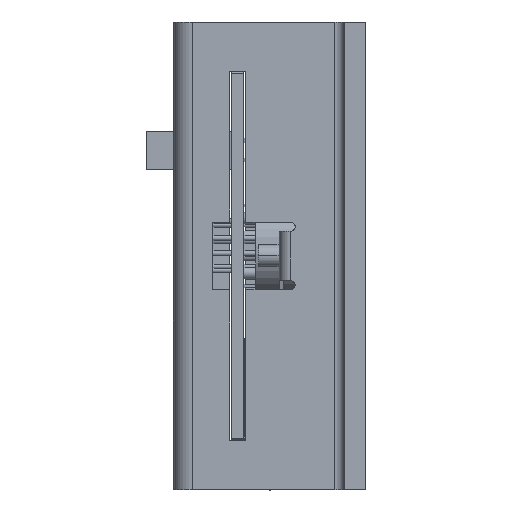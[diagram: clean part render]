
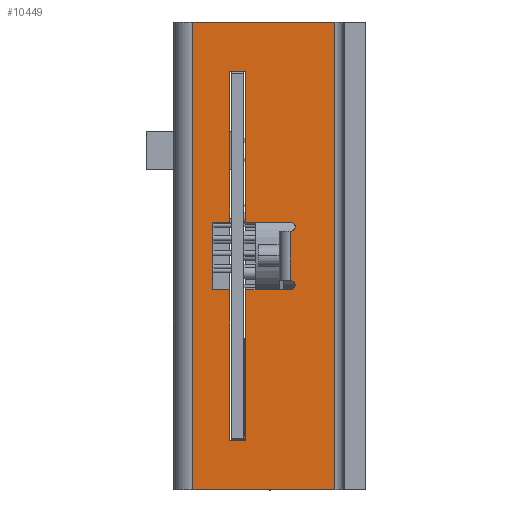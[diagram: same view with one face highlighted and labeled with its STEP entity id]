
A CAD part, front view. The second image highlights one B-rep face of the part: STEP entity #10449.
In plain terms, the highlighted planar face has unit normal (0, -1, 0).
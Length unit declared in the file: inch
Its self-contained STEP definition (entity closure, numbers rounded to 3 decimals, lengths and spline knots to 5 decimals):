
#34=DIRECTION('',(1.,0.,0.));
#35=VECTOR('',#34,0.728);
#36=CARTESIAN_POINT('',(-0.824,0.34,-2.388));
#37=LINE('',#36,#35);
#211=DIRECTION('',(1.,0.,0.));
#212=VECTOR('',#211,0.728);
#213=CARTESIAN_POINT('',(-0.824,0.34,0.));
#214=LINE('',#213,#212);
#345=DIRECTION('',(0.,0.,1.));
#346=VECTOR('',#345,2.388);
#347=CARTESIAN_POINT('',(-0.096,0.34,-2.388));
#348=LINE('',#347,#346);
#349=DIRECTION('',(0.,0.,1.));
#350=VECTOR('',#349,2.388);
#351=CARTESIAN_POINT('',(-0.824,0.34,-2.388));
#352=LINE('',#351,#350);
#353=CARTESIAN_POINT('',(-0.323,0.34,-1.045));
#354=DIRECTION('',(0.,-1.,0.));
#355=DIRECTION('',(0.,0.,-1.));
#356=AXIS2_PLACEMENT_3D('',#353,#354,#355);
#358=DIRECTION('',(1.,0.,0.));
#359=VECTOR('',#358,0.227);
#360=CARTESIAN_POINT('',(-0.55,0.34,-1.021));
#361=LINE('',#360,#359);
#362=DIRECTION('',(0.,0.,1.));
#363=VECTOR('',#362,0.769);
#364=CARTESIAN_POINT('',(-0.55,0.34,-1.021));
#365=LINE('',#364,#363);
#366=DIRECTION('',(-1.,0.,0.));
#367=VECTOR('',#366,0.082);
#368=CARTESIAN_POINT('',(-0.55,0.34,-0.252));
#369=LINE('',#368,#367);
#370=DIRECTION('',(0.,0.,-1.));
#371=VECTOR('',#370,0.769);
#372=CARTESIAN_POINT('',(-0.632,0.34,-0.252));
#373=LINE('',#372,#371);
#374=DIRECTION('',(1.,0.,0.));
#375=VECTOR('',#374,0.088);
#376=CARTESIAN_POINT('',(-0.72,0.34,-1.021));
#377=LINE('',#376,#375);
#378=DIRECTION('',(0.,0.,1.));
#379=VECTOR('',#378,0.346);
#380=CARTESIAN_POINT('',(-0.72,0.34,-1.367));
#381=LINE('',#380,#379);
#382=DIRECTION('',(-1.,0.,0.));
#383=VECTOR('',#382,0.088);
#384=CARTESIAN_POINT('',(-0.632,0.34,-1.367));
#385=LINE('',#384,#383);
#386=DIRECTION('',(0.,0.,-1.));
#387=VECTOR('',#386,0.769);
#388=CARTESIAN_POINT('',(-0.632,0.34,-1.367));
#389=LINE('',#388,#387);
#390=DIRECTION('',(1.,0.,0.));
#391=VECTOR('',#390,0.082);
#392=CARTESIAN_POINT('',(-0.632,0.34,-2.136));
#393=LINE('',#392,#391);
#394=DIRECTION('',(0.,0.,1.));
#395=VECTOR('',#394,0.769);
#396=CARTESIAN_POINT('',(-0.55,0.34,-2.136));
#397=LINE('',#396,#395);
#398=DIRECTION('',(-1.,0.,0.));
#399=VECTOR('',#398,0.227);
#400=CARTESIAN_POINT('',(-0.323,0.34,-1.367));
#401=LINE('',#400,#399);
#402=CARTESIAN_POINT('',(-0.323,0.34,-1.343));
#403=DIRECTION('',(0.,-1.,0.));
#404=DIRECTION('',(0.,0.,-1.));
#405=AXIS2_PLACEMENT_3D('',#402,#403,#404);
#6923=DIRECTION('',(0.,0.,1.));
#6924=VECTOR('',#6923,0.25);
#6925=CARTESIAN_POINT('',(-0.323,0.34,-1.319));
#6926=LINE('',#6925,#6924);
#7830=CARTESIAN_POINT('',(-0.824,0.34,-2.388));
#7832=VERTEX_POINT('',#7830);
#7833=CARTESIAN_POINT('',(-0.096,0.34,-2.388));
#7834=VERTEX_POINT('',#7833);
#7850=CARTESIAN_POINT('',(-0.824,0.34,0.));
#7852=VERTEX_POINT('',#7850);
#7853=CARTESIAN_POINT('',(-0.096,0.34,0.));
#7854=VERTEX_POINT('',#7853);
#7995=CARTESIAN_POINT('',(-0.55,0.34,-0.252));
#7996=CARTESIAN_POINT('',(-0.632,0.34,-0.252));
#7997=VERTEX_POINT('',#7995);
#7998=VERTEX_POINT('',#7996);
#7999=CARTESIAN_POINT('',(-0.632,0.34,-2.136));
#8000=CARTESIAN_POINT('',(-0.55,0.34,-2.136));
#8001=VERTEX_POINT('',#7999);
#8002=VERTEX_POINT('',#8000);
#8307=CARTESIAN_POINT('',(-0.72,0.34,-1.367));
#8308=CARTESIAN_POINT('',(-0.72,0.34,-1.021));
#8309=VERTEX_POINT('',#8307);
#8310=VERTEX_POINT('',#8308);
#8311=CARTESIAN_POINT('',(-0.632,0.34,-1.021));
#8312=VERTEX_POINT('',#8311);
#8313=CARTESIAN_POINT('',(-0.55,0.34,-1.021));
#8314=CARTESIAN_POINT('',(-0.323,0.34,-1.021));
#8315=VERTEX_POINT('',#8313);
#8316=VERTEX_POINT('',#8314);
#8317=CARTESIAN_POINT('',(-0.323,0.34,-1.367));
#8318=CARTESIAN_POINT('',(-0.55,0.34,-1.367));
#8319=VERTEX_POINT('',#8317);
#8320=VERTEX_POINT('',#8318);
#8321=CARTESIAN_POINT('',(-0.632,0.34,-1.367));
#8322=VERTEX_POINT('',#8321);
#8355=CARTESIAN_POINT('',(-0.323,0.34,-1.069));
#8356=VERTEX_POINT('',#8355);
#8357=CARTESIAN_POINT('',(-0.323,0.34,-1.319));
#8358=VERTEX_POINT('',#8357);
#10407=CARTESIAN_POINT('',(-0.824,0.34,-2.388));
#10408=DIRECTION('',(0.,-1.,0.));
#10409=DIRECTION('',(1.,0.,0.));
#10410=AXIS2_PLACEMENT_3D('',#10407,#10408,#10409);
#10411=PLANE('',#10410);
#10412=ORIENTED_EDGE('',*,*,#10162,.F.);
#10414=ORIENTED_EDGE('',*,*,#10413,.T.);
#10415=ORIENTED_EDGE('',*,*,#10290,.T.);
#10416=ORIENTED_EDGE('',*,*,#10398,.F.);
#10417=EDGE_LOOP('',(#10412,#10414,#10415,#10416));
#10418=FACE_OUTER_BOUND('',#10417,.F.);
#10420=ORIENTED_EDGE('',*,*,#10419,.T.);
#10422=ORIENTED_EDGE('',*,*,#10421,.T.);
#10424=ORIENTED_EDGE('',*,*,#10423,.F.);
#10426=ORIENTED_EDGE('',*,*,#10425,.T.);
#10428=ORIENTED_EDGE('',*,*,#10427,.T.);
#10430=ORIENTED_EDGE('',*,*,#10429,.T.);
#10432=ORIENTED_EDGE('',*,*,#10431,.F.);
#10434=ORIENTED_EDGE('',*,*,#10433,.F.);
#10436=ORIENTED_EDGE('',*,*,#10435,.F.);
#10438=ORIENTED_EDGE('',*,*,#10437,.T.);
#10440=ORIENTED_EDGE('',*,*,#10439,.T.);
#10442=ORIENTED_EDGE('',*,*,#10441,.T.);
#10444=ORIENTED_EDGE('',*,*,#10443,.F.);
#10446=ORIENTED_EDGE('',*,*,#10445,.T.);
#10447=EDGE_LOOP('',(#10420,#10422,#10424,#10426,#10428,#10430,#10432,#10434,
#10436,#10438,#10440,#10442,#10444,#10446));
#10448=FACE_BOUND('',#10447,.F.);
#10449=ADVANCED_FACE('',(#10418,#10448),#10411,.T.);
#357=CIRCLE('',#356,0.024);
#406=CIRCLE('',#405,0.024);
#10162=EDGE_CURVE('',#7832,#7834,#37,.T.);
#10290=EDGE_CURVE('',#7852,#7854,#214,.T.);
#10398=EDGE_CURVE('',#7834,#7854,#348,.T.);
#10413=EDGE_CURVE('',#7832,#7852,#352,.T.);
#10419=EDGE_CURVE('',#8358,#8356,#6926,.T.);
#10421=EDGE_CURVE('',#8356,#8316,#357,.T.);
#10423=EDGE_CURVE('',#8315,#8316,#361,.T.);
#10425=EDGE_CURVE('',#8315,#7997,#365,.T.);
#10427=EDGE_CURVE('',#7997,#7998,#369,.T.);
#10429=EDGE_CURVE('',#7998,#8312,#373,.T.);
#10431=EDGE_CURVE('',#8310,#8312,#377,.T.);
#10433=EDGE_CURVE('',#8309,#8310,#381,.T.);
#10435=EDGE_CURVE('',#8322,#8309,#385,.T.);
#10437=EDGE_CURVE('',#8322,#8001,#389,.T.);
#10439=EDGE_CURVE('',#8001,#8002,#393,.T.);
#10441=EDGE_CURVE('',#8002,#8320,#397,.T.);
#10443=EDGE_CURVE('',#8319,#8320,#401,.T.);
#10445=EDGE_CURVE('',#8319,#8358,#406,.T.);
